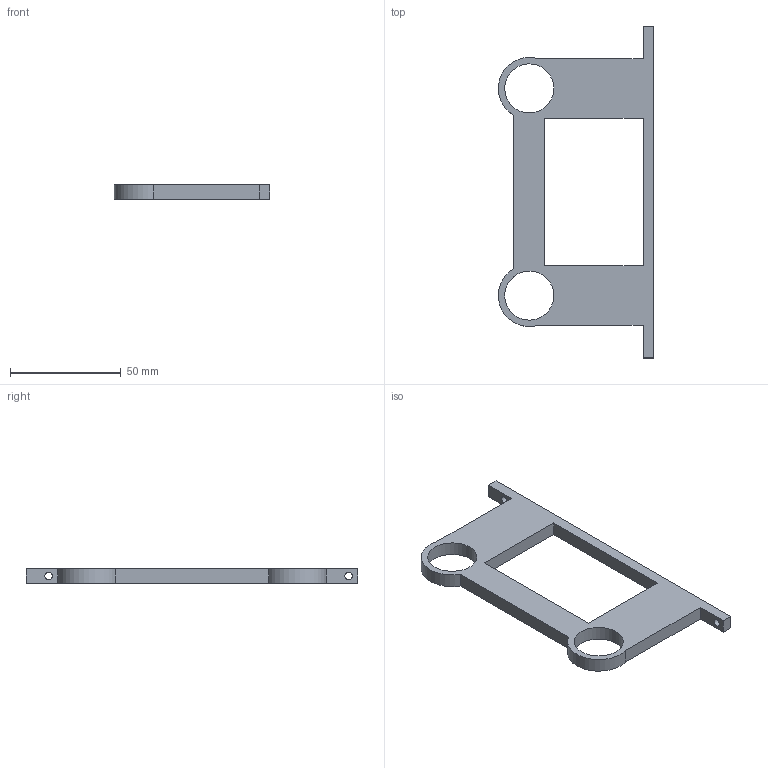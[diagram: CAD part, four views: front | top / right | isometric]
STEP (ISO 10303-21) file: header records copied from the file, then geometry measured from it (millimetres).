
FILE_DESCRIPTION(('Open CASCADE Model'),'2;1');
FILE_NAME('A10_H_internal_frame','2026-11-05T16:12:14',('Author'),( 'Open CASCADE'),'Open CASCADE STEP processor 7.9','build123d', 'Unknown');
FILE_SCHEMA(('AUTOMOTIVE_DESIGN { 1 0 10303 214 1 1 1 1 }'));
Length unit declared in the file: millimetre
Products named in the file (2): A10_H_internal_frame
Assembly tree (1 placements, depth 2):
  A10_H_internal_frame
    A10_H_internal_frame
Bounding box: 70.19 x 150 x 6.4 mm (x, y, z)
Volume: 27263.8 mm3; surface area: 13708 mm2
Topology: 1 solids, 1 shells, 20 faces, 54 edges, 36 vertices
Faces by surface type: plane 14, cylinder 6
Full cylindrical faces by diameter (mm): 3.4 x2, 22.2 x2
Entity records: 1398 total; most frequent: CARTESIAN_POINT 226, DIRECTION 212, LINE 132, VECTOR 132, ORIENTED_EDGE 108, PCURVE 108, DEFINITIONAL_REPRESENTATION 108, EDGE_CURVE 54
